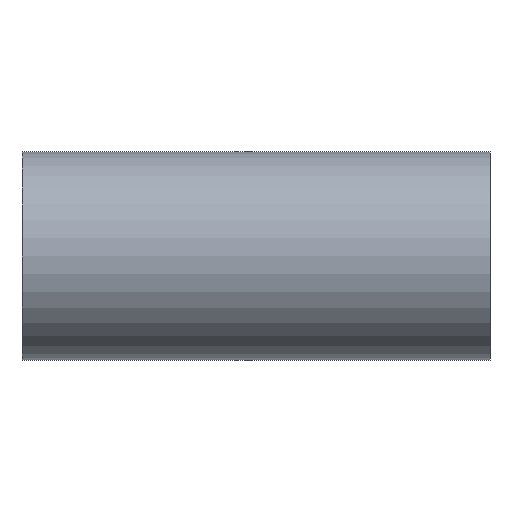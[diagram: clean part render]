
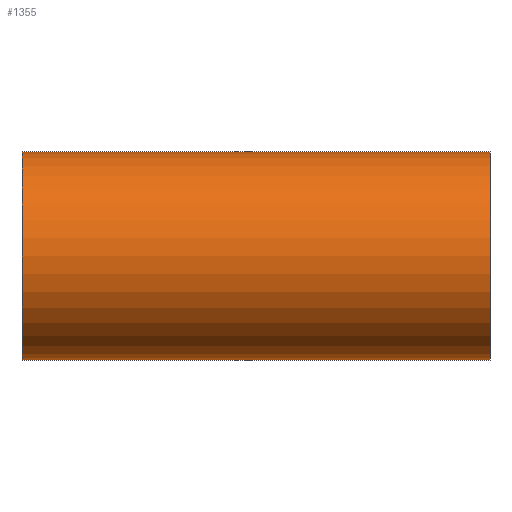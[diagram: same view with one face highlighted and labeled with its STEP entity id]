
A CAD part, front view. The second image highlights one B-rep face of the part: STEP entity #1355.
In plain terms, the highlighted cylindrical face has radius 38.1 mm (diameter 76.2 mm), a partial arc.
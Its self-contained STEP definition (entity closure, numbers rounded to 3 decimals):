
#38 = CARTESIAN_POINT ( 'NONE',  ( -85.7, 0., -38.1 ) ) ;
#46 = VERTEX_POINT ( 'NONE', #657 ) ;
#108 = CARTESIAN_POINT ( 'NONE',  ( -85.7, 0., 38.1 ) ) ;
#129 = EDGE_CURVE ( 'NONE', #1863, #1300, #1966, .T. ) ;
#171 = AXIS2_PLACEMENT_3D ( 'NONE', #1838, #1703, #1991 ) ;
#215 = LINE ( 'NONE', #108, #483 ) ;
#275 = CARTESIAN_POINT ( 'NONE',  ( -85.7, 0., 38.1 ) ) ;
#483 = VECTOR ( 'NONE', #1282, 1000. ) ;
#578 = ORIENTED_EDGE ( 'NONE', *, *, #984, .T. ) ;
#580 = ORIENTED_EDGE ( 'NONE', *, *, #1020, .T. ) ;
#657 = CARTESIAN_POINT ( 'NONE',  ( 85.7, 0., 38.1 ) ) ;
#713 = CIRCLE ( 'NONE', #171, 38.1 ) ;
#807 = CYLINDRICAL_SURFACE ( 'NONE', #1537, 38.1 ) ;
#919 = EDGE_CURVE ( 'NONE', #1011, #46, #215, .T. ) ;
#980 = CIRCLE ( 'NONE', #2033, 38.1 ) ;
#984 = EDGE_CURVE ( 'NONE', #1300, #46, #980, .T. ) ;
#996 = CARTESIAN_POINT ( 'NONE',  ( -85.7, 0., 0. ) ) ;
#1011 = VERTEX_POINT ( 'NONE', #275 ) ;
#1020 = EDGE_CURVE ( 'NONE', #1011, #1863, #713, .T. ) ;
#1123 = FACE_OUTER_BOUND ( 'NONE', #2021, .T. ) ;
#1142 = DIRECTION ( 'NONE',  ( 1., 0., 0. ) ) ;
#1228 = ORIENTED_EDGE ( 'NONE', *, *, #129, .T. ) ;
#1282 = DIRECTION ( 'NONE',  ( 1., 0., 0. ) ) ;
#1300 = VERTEX_POINT ( 'NONE', #1670 ) ;
#1355 = ADVANCED_FACE ( 'NONE', ( #1123 ), #807, .T. ) ;
#1516 = CARTESIAN_POINT ( 'NONE',  ( 85.7, 0., 0. ) ) ;
#1531 = DIRECTION ( 'NONE',  ( -1., 0., 0. ) ) ;
#1537 = AXIS2_PLACEMENT_3D ( 'NONE', #996, #1142, #1699 ) ;
#1566 = DIRECTION ( 'NONE',  ( 0., 0., -1. ) ) ;
#1670 = CARTESIAN_POINT ( 'NONE',  ( 85.7, 0., -38.1 ) ) ;
#1699 = DIRECTION ( 'NONE',  ( 0., 0., -1. ) ) ;
#1703 = DIRECTION ( 'NONE',  ( 1., 0., 0. ) ) ;
#1747 = ORIENTED_EDGE ( 'NONE', *, *, #919, .F. ) ;
#1838 = CARTESIAN_POINT ( 'NONE',  ( -85.7, 0., 0. ) ) ;
#1862 = CARTESIAN_POINT ( 'NONE',  ( -85.7, 0., -38.1 ) ) ;
#1863 = VERTEX_POINT ( 'NONE', #38 ) ;
#1889 = DIRECTION ( 'NONE',  ( 1., 0., 0. ) ) ;
#1966 = LINE ( 'NONE', #1862, #2059 ) ;
#1991 = DIRECTION ( 'NONE',  ( 0., 0., -1. ) ) ;
#2021 = EDGE_LOOP ( 'NONE', ( #1747, #580, #1228, #578 ) ) ;
#2033 = AXIS2_PLACEMENT_3D ( 'NONE', #1516, #1531, #1566 ) ;
#2059 = VECTOR ( 'NONE', #1889, 1000. ) ;
